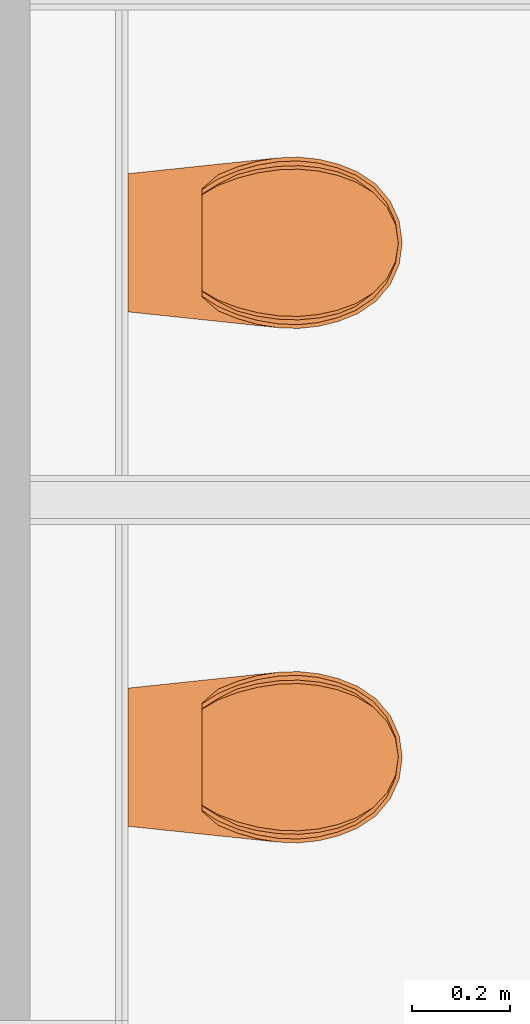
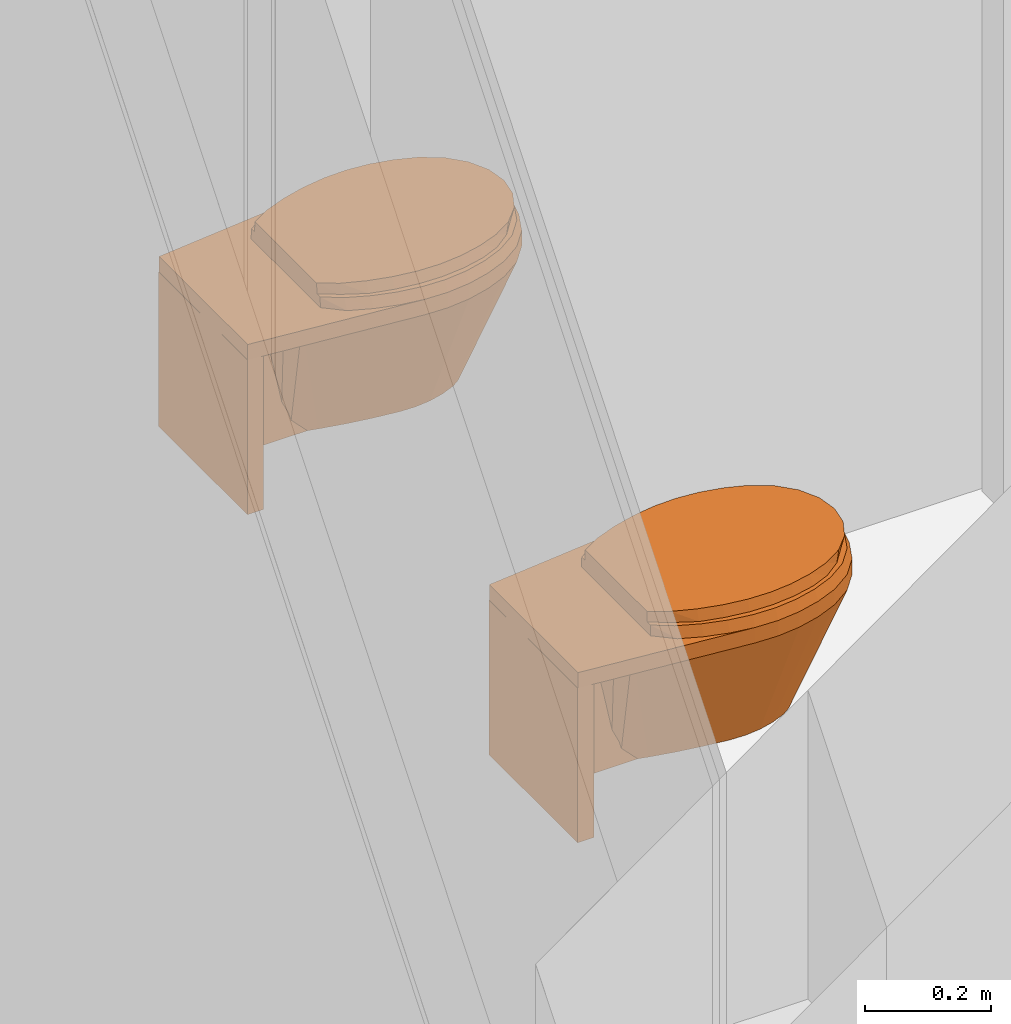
# One storey, part 130 of 135: 2 proxies.
"""IFC2X3 building model written with IfcOpenShell, lengths in millimetres."""

from ifc_helpers import new_model, entity, si_unit, converted_unit, derived_unit, money_unit, direction, frame, origin_with_axes, place, context, subcontext, project, spatial, open_shell, faceted_brep, surface_model, source, transform, mapped, type_object, type_shapes, element, save


model = new_model("IFC2X3")

# Units and contexts
model_context = context("Model", 3, precision=0.01, world=origin_with_axes(), true_north=direction((0.0, 1.0)))
body_context = subcontext(model_context, "Body", "Model", "MODEL_VIEW")
ifc_project = project(units=[si_unit("LENGTHUNIT", "METRE", prefix="MILLI"), si_unit("AREAUNIT", "SQUARE_METRE"), si_unit("VOLUMEUNIT", "CUBIC_METRE"), converted_unit("PLANEANGLEUNIT", "DEGREE", entity("IfcPlaneAngleMeasure", 0.0174532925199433), si_unit("PLANEANGLEUNIT", "RADIAN"), dimensions=[0, 0, 0, 0, 0, 0, 0]), money_unit("EUR"), converted_unit("TIMEUNIT", "Year", entity("IfcTimeMeasure", 31557600.0), si_unit("TIMEUNIT", "SECOND"), dimensions=[0, 0, 1, 0, 0, 0, 0]), si_unit("MASSUNIT", "GRAM", prefix="KILO"), si_unit("THERMODYNAMICTEMPERATUREUNIT", "DEGREE_CELSIUS"), si_unit("LUMINOUSINTENSITYUNIT", "LUMEN"), si_unit("ENERGYUNIT", "JOULE", prefix="MEGA"), derived_unit("THERMALCONDUCTANCEUNIT", [(si_unit("POWERUNIT", "WATT"), 1), (si_unit("LENGTHUNIT", "METRE"), -1), (si_unit("THERMODYNAMICTEMPERATUREUNIT", "KELVIN"), -1)]), derived_unit("SPECIFICHEATCAPACITYUNIT", [(si_unit("ENERGYUNIT", "JOULE"), 1), (si_unit("MASSUNIT", "GRAM", prefix="KILO"), -1), (si_unit("THERMODYNAMICTEMPERATUREUNIT", "KELVIN"), -1)]), derived_unit("MASSDENSITYUNIT", [(si_unit("MASSUNIT", "GRAM", prefix="KILO"), 1), (si_unit("VOLUMEUNIT", "CUBIC_METRE"), -1)])], contexts=[model_context])

# Site, building, storey
site_placement = place(None, origin_with_axes())
site = spatial("IfcSite", under=ifc_project, at=site_placement, Name="Site", CompositionType="ELEMENT")
building_placement = place(site_placement, origin_with_axes())
building = spatial("IfcBuilding", under=site, at=building_placement, Name="Naam gebouw", CompositionType="ELEMENT")
storey_placement = place(building_placement, origin_with_axes())
storey = spatial("IfcBuildingStorey", under=building, at=storey_placement, Name="Begane grond N", CompositionType="ELEMENT", Elevation=0.0)

# Proxies
building_element_proxy_type = type_object("IfcBuildingElementProxyType", Name="Toilet 27", PredefinedType="NOTDEFINED")
shared_shape = source(origin_with_axes(), body_context, "Body", "SurfaceModel", [
    faceted_brep([(-141.0283315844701, -29.31865370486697, 69.99999999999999), (-141.0283315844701, 0.4949050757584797, 69.99999999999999), (141.0283315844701, 0.4949050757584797, 69.99999999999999), (141.0283315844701, -29.31865370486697, 69.99999999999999), (-141.0283315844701, -29.31865370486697, 370.0), (-141.0283315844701, 0.4949050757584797, 370.0), (141.0283315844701, 0.4949050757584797, 370.0), (141.0283315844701, -29.31865370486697, 370.0)], [[[0, 1, 2, 3]], [[0, 4, 5, 1]], [[1, 5, 6, 2]], [[2, 6, 7, 3]], [[3, 7, 4, 0]], [[7, 6, 5, 4]]]),
    faceted_brep([(0.0, -70.89167385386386, 370.0), (29.22322490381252, -74.34010881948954, 370.0), (48.96817068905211, -81.5929972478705, 370.0), (48.96817068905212, -29.31865370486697, 370.0), (-48.96817068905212, -29.31865370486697, 370.0), (-48.96817068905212, -81.5929972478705, 370.0), (-29.22322490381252, -74.34010881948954, 370.0), (0.0, -102.6888280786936, 120.0), (13.70129415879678, -104.9506834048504, 120.0), (48.96817068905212, -88.2509938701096, 324.1614695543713), (48.96817068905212, -91.42153264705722, 305.9289314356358), (48.96817068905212, -107.0876370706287, 223.4625696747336), (48.96817068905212, -115.6023982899, 192.7960154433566), (48.96817068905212, -121.830119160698, 170.4964192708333), (48.96817068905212, -132.9294031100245, 150.8349994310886), (48.96817068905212, -136.958898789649, 141.3134093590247), (48.96817068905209, -162.865413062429, 120.0), (48.96817068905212, -29.31865370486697, 120.0), (-48.96817068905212, -29.31865370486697, 120.0), (-48.96817068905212, -132.9294031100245, 150.8349994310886), (-48.96817068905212, -128.1614437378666, 166.4745945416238), (-48.96817068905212, -115.6023982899, 192.7960154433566), (-48.96817068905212, -98.32654517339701, 277.0091093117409), (-48.96817068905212, -91.42153264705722, 305.9289314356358), (-48.96817068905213, -162.8654130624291, 120.0), (-25.9903462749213, -111.5027098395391, 120.0), (-13.70129415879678, -104.9506834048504, 120.0), (25.9903462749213, -111.5027098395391, 120.0), (35.59888072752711, -121.6691333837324, 120.0), (41.53676110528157, -134.4015105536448, 120.0), (-35.59888072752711, -121.6691333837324, 120.0), (-41.53676110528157, -134.4015105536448, 120.0)], [[[0, 1, 2, 3, 4, 5, 6]], [[0, 7, 1]], [[1, 8, 9, 2]], [[9, 10, 11, 12, 13, 14, 15, 16, 17, 3, 2]], [[4, 3, 17, 18]], [[19, 20, 21, 22, 23, 5, 4, 18, 24]], [[23, 25, 6, 5]], [[6, 26, 0]], [[7, 0, 26]], [[8, 1, 7]], [[27, 10, 9, 8]], [[10, 27, 11]], [[28, 12, 11, 27]], [[12, 28, 13]], [[29, 14, 13, 28]], [[14, 29, 15]], [[16, 15, 29]], [[29, 28, 27, 8, 7, 26, 25, 30, 31, 24, 18, 17, 16]], [[19, 31, 20]], [[20, 31, 30, 21]], [[21, 30, 22]], [[22, 30, 25, 23]], [[24, 31, 19]], [[26, 6, 25]]]),
    surface_model("IfcShellBasedSurfaceModel", [(-17.69122070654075, -459.020482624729, 120.0), (-85.18209164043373, -535.3680377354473, 370.0), (-34.02798181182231, -451.6883347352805, 120.0), (-44.28681357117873, -553.722258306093, 370.0), (-119.554809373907, -506.3435444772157, 370.0), (-47.75865687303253, -440.0938417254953, 120.0), (-57.83238894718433, -425.1254476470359, 120.0), (-68.23029031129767, -399.4182096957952, 120.0), (-74.94382651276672, -372.4786779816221, 120.0), (-77.83882476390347, -344.845484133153, 120.0), (-76.85750262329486, -317.0761416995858, 120.0), (-70.97348723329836, -270.8651255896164, 120.0), (-63.11507520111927, -224.9582077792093, 120.0), (-53.29597761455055, -179.4418475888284, 120.0), (-41.53676110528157, -134.4015105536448, 120.0), (-35.59888072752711, -121.6691333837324, 120.0), (-25.9903462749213, -111.5027098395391, 120.0), (-13.70129415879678, -104.9506834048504, 120.0), (0.0, -102.6888280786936, 120.0), (13.70129415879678, -104.9506834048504, 120.0), (25.9903462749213, -111.5027098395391, 120.0), (35.59888072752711, -121.6691333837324, 120.0), (41.53676110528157, -134.4015105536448, 120.0), (53.29597761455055, -179.4418475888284, 120.0), (63.11507520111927, -224.9582077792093, 120.0), (70.97348723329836, -270.8651255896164, 120.0), (76.85750262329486, -317.0761416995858, 120.0), (77.83882476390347, -344.8464779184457, 120.0), (74.94382651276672, -372.4786779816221, 120.0), (68.23029031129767, -399.4182096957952, 120.0), (57.83238894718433, -425.1254476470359, 120.0), (47.75865687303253, -440.0938417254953, 120.0), (34.02798181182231, -451.6883347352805, 120.0), (17.69122070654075, -459.020482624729, 120.0), (0.0, -461.5278029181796, 120.0), (-144.7734172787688, -468.8718762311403, 370.0), (-160.3903462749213, -430.2603362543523, 370.0), (-170.4738719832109, -389.7973742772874, 370.0), (-174.8222455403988, -348.2949128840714, 370.0), (-173.3473242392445, -306.5847503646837, 370.0), (-164.8111927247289, -257.2969749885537, 370.0), (-149.8396642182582, -209.614162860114, 370.0), (-128.7050017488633, -164.3989196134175, 370.0), (-101.7881776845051, -122.4661491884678, 370.0), (-81.51241692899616, -100.8344247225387, 370.0), (-56.88632388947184, -84.50156343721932, 370.0), (-29.22322490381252, -74.34010881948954, 370.0), (0.0, -70.89167385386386, 370.0), (29.22322490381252, -74.34010881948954, 370.0), (56.88632388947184, -84.50156343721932, 370.0), (81.51241692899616, -100.8344247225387, 370.0), (101.7881776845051, -122.4661491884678, 370.0), (128.7050017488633, -164.3989196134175, 370.0), (149.8396642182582, -209.614162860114, 370.0), (164.8111927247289, -257.295981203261, 370.0), (173.3473242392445, -306.5847503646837, 370.0), (174.8222455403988, -348.2949128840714, 370.0), (170.4738719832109, -389.7973742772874, 370.0), (160.3893669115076, -430.2603362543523, 370.0), (144.7734172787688, -468.8718762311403, 370.0), (119.554809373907, -506.3435444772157, 370.0), (85.18209164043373, -535.3680377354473, 370.0), (44.28681357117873, -553.722258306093, 370.0), (0.0, -560.0, 370.0)], [open_shell([[[0, 1, 2]], [[0, 3, 1]], [[2, 1, 4]], [[0, 2, 5, 6, 7, 8, 9, 10, 11, 12, 13, 14, 15, 16, 17, 18, 19, 20, 21, 22, 23, 24, 25, 26, 27, 28, 29, 30, 31, 32, 33, 34]], [[34, 3, 0]], [[2, 4, 5]], [[5, 35, 6]], [[6, 36, 7]], [[7, 37, 8]], [[8, 38, 9]], [[9, 39, 10]], [[10, 40, 11]], [[11, 41, 12]], [[12, 42, 13]], [[13, 43, 14]], [[14, 44, 15]], [[15, 45, 16]], [[16, 46, 17]], [[17, 47, 18]], [[18, 48, 19]], [[19, 49, 20]], [[20, 50, 21]], [[21, 51, 22]], [[22, 52, 23]], [[23, 53, 24]], [[24, 54, 25]], [[25, 55, 26]], [[26, 56, 27]], [[27, 57, 28]], [[28, 58, 29]], [[29, 59, 30]], [[30, 60, 31]], [[31, 61, 32]], [[32, 62, 33]], [[33, 63, 34]], [[34, 63, 3]], [[5, 4, 35]], [[6, 35, 36]], [[7, 36, 37]], [[8, 37, 38]], [[9, 38, 39]], [[10, 39, 40]], [[11, 40, 41]], [[12, 41, 42]], [[13, 42, 43]], [[14, 43, 44]], [[15, 44, 45]], [[16, 45, 46]], [[17, 46, 47]], [[18, 47, 48]], [[19, 48, 49]], [[20, 49, 50]], [[21, 50, 51]], [[22, 51, 52]], [[23, 52, 53]], [[24, 53, 54]], [[25, 54, 55]], [[26, 55, 56]], [[27, 56, 57]], [[28, 57, 58]], [[29, 58, 59]], [[30, 59, 60]], [[31, 60, 61]], [[32, 61, 62]], [[33, 62, 63]]])]),
    faceted_brep([(173.3473242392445, -306.5847503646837, 370.0), (173.3473242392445, -306.5847503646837, 400.0), (174.8222455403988, -348.2949128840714, 400.0), (174.8222455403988, -348.2949128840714, 370.0), (140.9734872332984, 0.0, 370.0), (140.9734872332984, 0.0, 400.0), (-140.975445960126, 0.0, 400.0), (-173.3473242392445, -306.5847503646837, 400.0), (-174.8222455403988, -348.2949128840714, 400.0), (-170.4738719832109, -389.7973742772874, 400.0), (-160.3903462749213, -430.2603362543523, 400.0), (-144.7734172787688, -468.8718762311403, 400.0), (-119.554809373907, -506.3435444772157, 400.0), (-85.18209164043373, -535.3680377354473, 400.0), (-44.28681357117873, -553.722258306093, 400.0), (0.0, -560.0, 400.0), (44.28681357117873, -553.722258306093, 400.0), (85.18209164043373, -535.3680377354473, 400.0), (119.554809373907, -506.3435444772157, 400.0), (144.7734172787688, -468.8718762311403, 400.0), (160.3893669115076, -430.2603362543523, 400.0), (170.4738719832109, -389.7973742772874, 400.0), (-144.5021336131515, -309.7211367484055, 400.0), (-129.3885974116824, -258.2838037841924, 400.0), (-97.13522210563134, -215.7418429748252, 400.0), (-52.01301154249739, -187.731010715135, 400.0), (0.0, -177.9630950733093, 400.0), (52.01301154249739, -187.731010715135, 400.0), (97.13522210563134, -215.7418429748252, 400.0), (129.3885974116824, -258.2838037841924, 400.0), (144.5021336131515, -309.7211367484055, 400.0), (145.8291710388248, -347.2633637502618, 400.0), (141.914655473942, -384.6197529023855, 400.0), (132.838894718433, -421.0399963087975, 400.0), (118.7820916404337, -455.7936617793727, 400.0), (98.09206016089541, -486.5383973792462, 400.0), (69.89031129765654, -510.3524743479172, 400.0), (36.33634137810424, -525.411302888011, 400.0), (0.0, -530.5620920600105, 400.0), (-36.33634137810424, -525.411302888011, 400.0), (-69.89031129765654, -510.3524743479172, 400.0), (-98.09206016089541, -486.5383973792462, 400.0), (-118.7820916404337, -455.7936617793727, 400.0), (-132.838894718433, -421.0399963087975, 400.0), (-141.914655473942, -384.6197529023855, 400.0), (-145.8291710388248, -347.2633637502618, 400.0), (170.4738719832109, -389.7973742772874, 370.0), (160.3893669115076, -430.2603362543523, 370.0), (144.7734172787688, -468.8718762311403, 370.0), (119.554809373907, -506.3435444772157, 370.0), (85.18209164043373, -535.3680377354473, 370.0), (44.28681357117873, -553.722258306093, 370.0), (0.0, -560.0, 370.0), (-44.28681357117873, -553.722258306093, 370.0), (-85.18209164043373, -535.3680377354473, 370.0), (-119.554809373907, -506.3435444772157, 370.0), (-144.7734172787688, -468.8718762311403, 370.0), (-160.3903462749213, -430.2603362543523, 370.0), (-170.4738719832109, -389.7973742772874, 370.0), (-174.8222455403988, -348.2949128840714, 370.0), (-173.3473242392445, -306.5847503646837, 370.0), (-140.975445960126, 0.0, 370.0), (-144.5021336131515, -309.7211367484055, 370.0), (-145.8291710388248, -347.2633637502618, 370.0), (-141.914655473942, -384.6197529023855, 370.0), (-132.838894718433, -421.0399963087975, 370.0), (-118.7820916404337, -455.7936617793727, 370.0), (-98.09206016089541, -486.5383973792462, 370.0), (-69.89031129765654, -510.3524743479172, 370.0), (-36.33634137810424, -525.411302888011, 370.0), (0.0, -530.5620920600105, 370.0), (36.33634137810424, -525.411302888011, 370.0), (69.89031129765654, -510.3524743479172, 370.0), (98.09206016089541, -486.5383973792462, 370.0), (118.7820916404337, -455.7936617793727, 370.0), (132.838894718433, -421.0399963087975, 370.0), (141.914655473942, -384.6197529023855, 370.0), (145.8291710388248, -347.2633637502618, 370.0), (144.5021336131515, -309.7211367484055, 370.0), (129.3885974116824, -258.2838037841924, 370.0), (97.13522210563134, -215.7418429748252, 370.0), (52.01301154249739, -187.731010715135, 370.0), (0.0, -177.9630950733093, 370.0), (-52.01301154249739, -187.731010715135, 370.0), (-97.13522210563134, -215.7418429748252, 370.0), (-129.3885974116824, -258.2838037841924, 370.0)], [[[0, 1, 2, 3]], [[4, 5, 1, 0]], [[1, 5, 6, 7, 8, 9, 10, 11, 12, 13, 14, 15, 16, 17, 18, 19, 20, 21, 2], [22, 23, 24, 25, 26, 27, 28, 29, 30, 31, 32, 33, 34, 35, 36, 37, 38, 39, 40, 41, 42, 43, 44, 45]], [[3, 2, 21, 46]], [[0, 3, 46, 47, 48, 49, 50, 51, 52, 53, 54, 55, 56, 57, 58, 59, 60, 61, 4], [62, 63, 64, 65, 66, 67, 68, 69, 70, 71, 72, 73, 74, 75, 76, 77, 78, 79, 80, 81, 82, 83, 84, 85]], [[61, 6, 5, 4]], [[60, 7, 6, 61]], [[59, 8, 7, 60]], [[58, 9, 8, 59]], [[57, 10, 9, 58]], [[56, 11, 10, 57]], [[55, 12, 11, 56]], [[54, 13, 12, 55]], [[53, 14, 13, 54]], [[52, 15, 14, 53]], [[51, 16, 15, 52]], [[50, 17, 16, 51]], [[49, 18, 17, 50]], [[48, 19, 18, 49]], [[47, 20, 19, 48]], [[46, 21, 20, 47]], [[85, 23, 22, 62]], [[84, 24, 23, 85]], [[83, 25, 24, 84]], [[82, 26, 25, 83]], [[81, 27, 26, 82]], [[80, 28, 27, 81]], [[79, 29, 28, 80]], [[78, 30, 29, 79]], [[77, 31, 30, 78]], [[76, 32, 31, 77]], [[75, 33, 32, 76]], [[74, 34, 33, 75]], [[73, 35, 34, 74]], [[72, 36, 35, 73]], [[71, 37, 36, 72]], [[70, 38, 37, 71]], [[69, 39, 38, 70]], [[68, 40, 39, 69]], [[67, 41, 40, 68]], [[66, 42, 41, 67]], [[65, 43, 42, 66]], [[64, 44, 43, 65]], [[63, 45, 44, 64]], [[62, 22, 45, 63]]]),
    surface_model("IfcShellBasedSurfaceModel", [(-16.80665967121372, -465.7329258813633, 220.0), (-80.92298705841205, -525.2840188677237, 370.0), (-32.3265827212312, -460.0138505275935, 220.0), (-42.0724728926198, -539.6003109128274, 370.0), (-113.5770689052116, -502.644914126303, 370.0), (-45.3707240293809, -450.970145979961, 220.0), (-54.94076949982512, -439.2947985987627, 220.0), (-64.81877579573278, -419.2431529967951, 220.0), (-71.1966351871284, -398.23031825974, 220.0), (-73.9468835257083, -376.6764270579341, 220.0), (-73.01462749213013, -355.0163399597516, 220.0), (-67.42481287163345, -318.9717473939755, 220.0), (-59.95932144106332, -283.164351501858, 220.0), (-50.63117873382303, -247.6615905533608, 220.0), (-39.4599230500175, -212.5301276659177, 220.0), (-33.81893669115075, -202.598873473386, 220.0), (-24.69082896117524, -194.6690631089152, 220.0), (-13.01622945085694, -189.558482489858, 220.0), (0.0, -187.7942353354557, 220.0), (13.01622945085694, -189.558482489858, 220.0), (24.69082896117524, -194.6690631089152, 220.0), (33.81893669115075, -202.598873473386, 220.0), (39.4599230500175, -212.5301276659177, 220.0), (50.63117873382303, -247.6615905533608, 220.0), (59.95932144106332, -283.164351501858, 220.0), (67.42481287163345, -318.9717473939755, 220.0), (73.01462749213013, -355.0163399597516, 220.0), (73.9468835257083, -376.6772022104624, 220.0), (71.1966351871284, -398.23031825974, 220.0), (64.81877579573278, -419.2431529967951, 220.0), (54.94076949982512, -439.2947985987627, 220.0), (45.3707240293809, -450.970145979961, 220.0), (32.3265827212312, -460.0138505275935, 220.0), (16.80665967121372, -465.7329258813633, 220.0), (0.0, -467.6886357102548, 220.0), (-137.5347464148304, -473.4170128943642, 370.0), (-152.3708289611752, -443.3000117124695, 370.0), (-161.9501783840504, -411.7389013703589, 370.0), (-166.0811332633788, -379.3669814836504, 370.0), (-164.6799580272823, -346.833054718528, 370.0), (-156.5706330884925, -308.3885899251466, 370.0), (-142.3476810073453, -271.1959964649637, 370.0), (-122.2697516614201, -235.9281067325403, 370.0), (-96.69876880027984, -203.2205458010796, 370.0), (-77.43679608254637, -186.3478007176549, 370.0), (-54.04200769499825, -173.6081689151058, 370.0), (-27.7620636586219, -165.6822343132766, 370.0), (0.0, -162.9924550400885, 370.0), (27.7620636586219, -165.6822343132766, 370.0), (54.04200769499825, -173.6081689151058, 370.0), (77.43679608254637, -186.3478007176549, 370.0), (96.69876880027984, -203.2205458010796, 370.0), (122.2697516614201, -235.9281067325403, 370.0), (142.3476810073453, -271.1959964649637, 370.0), (156.5706330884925, -308.3878147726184, 370.0), (164.6799580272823, -346.833054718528, 370.0), (166.0811332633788, -379.3669814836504, 370.0), (161.9501783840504, -411.7389013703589, 370.0), (152.3698985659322, -443.3000117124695, 370.0), (137.5347464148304, -473.4170128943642, 370.0), (113.5770689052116, -502.644914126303, 370.0), (80.92298705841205, -525.2840188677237, 370.0), (42.0724728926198, -539.6003109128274, 370.0), (0.0, -544.4969494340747, 370.0)], [open_shell([[[0, 1, 2]], [[0, 3, 1]], [[2, 1, 4]], [[0, 2, 5, 6, 7, 8, 9, 10, 11, 12, 13, 14, 15, 16, 17, 18, 19, 20, 21, 22, 23, 24, 25, 26, 27, 28, 29, 30, 31, 32, 33, 34]], [[34, 3, 0]], [[2, 4, 5]], [[5, 35, 6]], [[6, 36, 7]], [[7, 37, 8]], [[8, 38, 9]], [[9, 39, 10]], [[10, 40, 11]], [[11, 41, 12]], [[12, 42, 13]], [[13, 43, 14]], [[14, 44, 15]], [[15, 45, 16]], [[16, 46, 17]], [[17, 47, 18]], [[18, 48, 19]], [[19, 49, 20]], [[20, 50, 21]], [[21, 51, 22]], [[22, 52, 23]], [[23, 53, 24]], [[24, 54, 25]], [[25, 55, 26]], [[26, 56, 27]], [[27, 57, 28]], [[28, 58, 29]], [[29, 59, 30]], [[30, 60, 31]], [[31, 61, 32]], [[32, 62, 33]], [[33, 63, 34]], [[34, 63, 3]], [[5, 4, 35]], [[6, 35, 36]], [[7, 36, 37]], [[8, 37, 38]], [[9, 38, 39]], [[10, 39, 40]], [[11, 40, 41]], [[12, 41, 42]], [[13, 42, 43]], [[14, 43, 44]], [[15, 44, 45]], [[16, 45, 46]], [[17, 46, 47]], [[18, 47, 48]], [[19, 48, 49]], [[20, 49, 50]], [[21, 50, 51]], [[22, 51, 52]], [[23, 52, 53]], [[24, 53, 54]], [[25, 54, 55]], [[26, 55, 56]], [[27, 56, 57]], [[28, 57, 58]], [[29, 58, 59]], [[30, 59, 60]], [[31, 60, 61]], [[32, 61, 62]], [[33, 62, 63]]])]),
    faceted_brep([(0.0, -560.0, 400.0), (-44.28681357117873, -553.722258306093, 400.0), (-85.18209164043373, -535.3680377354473, 400.0), (-119.554809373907, -506.3435444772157, 400.0), (-144.7734172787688, -468.8718762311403, 400.0), (-160.3903462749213, -430.2603362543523, 400.0), (-170.4738719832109, -389.7973742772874, 400.0), (-174.8222455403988, -348.2949128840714, 400.0), (-173.3473242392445, -306.5847503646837, 400.0), (-166.4663168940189, -264.4263906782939, 400.0), (-154.8716334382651, -223.3443004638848, 400.0), (-138.7150752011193, -183.8810864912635, 400.0), (-110.1926579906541, -151.3163525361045, 400.0), (110.1926579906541, -151.3163525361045, 400.0), (138.7150752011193, -183.8810864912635, 400.0), (154.8716334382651, -223.3443004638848, 400.0), (166.4663168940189, -264.4263906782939, 400.0), (173.3473242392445, -306.5847503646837, 400.0), (174.8222455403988, -348.2949128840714, 400.0), (170.4738719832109, -389.7973742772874, 400.0), (160.3893669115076, -430.2603362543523, 400.0), (144.7734172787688, -468.8718762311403, 400.0), (119.554809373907, -506.3435444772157, 400.0), (85.18209164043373, -535.3680377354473, 400.0), (44.28681357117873, -553.722258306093, 400.0), (-87.07689659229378, -411.9963613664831, 400.0), (-76.4888004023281, -438.0775703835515, 400.0), (-62.06856874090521, -459.4262123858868, 400.0), (-44.26109835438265, -474.4067566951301, 400.0), (-23.02579943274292, -483.9023013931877, 400.0), (0.0, -487.1544663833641, 400.0), (23.02579943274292, -483.9023013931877, 400.0), (44.26109835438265, -474.4067566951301, 400.0), (62.06856874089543, -459.4262123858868, 400.0), (76.4888004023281, -438.0775703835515, 400.0), (87.07689659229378, -411.9963613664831, 400.0), (94.51085540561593, -382.2763031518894, 400.0), (97.71606496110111, -351.7983255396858, 400.0), (96.61425296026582, -320.7429308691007, 400.0), (90.99294096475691, -286.7942733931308, 400.0), (81.3289539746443, -253.3384220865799, 400.0), (68.75412876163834, -223.4663237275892, 400.0), (-68.75448552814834, -223.4663237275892, 400.0), (-81.32886310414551, -253.3381075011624, 400.0), (-90.99294096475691, -286.7942733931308, 400.0), (-96.61425296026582, -320.7429308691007, 400.0), (-97.71606496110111, -351.7983255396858, 400.0), (-94.51085540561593, -382.2763031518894, 400.0), (-42.15180132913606, -546.1188070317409, 420.0000000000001), (-81.07562084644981, -528.649055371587, 420.0000000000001), (-113.7912556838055, -501.0248055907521, 420.0000000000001), (-137.7925148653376, -465.3598390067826, 420.0000000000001), (-152.9902763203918, -427.7848170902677, 420.0000000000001), (-162.8034977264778, -388.4070686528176, 420.0000000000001), (-167.0353270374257, -348.0176467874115, 420.0000000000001), (-165.6005596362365, -307.4274802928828, 420.0000000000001), (-158.5902763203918, -264.9332211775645, 420.0000000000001), (-146.6880727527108, -223.5758524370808, 420.0000000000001), (-130.06142007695, -183.9307757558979, 420.0000000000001), (-108.940468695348, -151.3163525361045, 420.0000000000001), (108.940468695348, -151.3163525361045, 420.0000000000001), (130.06142007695, -183.9317695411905, 420.0000000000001), (146.6880727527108, -223.5758524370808, 420.0000000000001), (158.5902763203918, -264.9332211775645, 420.0000000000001), (165.6005596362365, -307.4274802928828, 420.0000000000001), (167.0353270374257, -348.0176467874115, 420.0000000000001), (162.8034977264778, -388.4070686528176, 420.0000000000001), (152.9902763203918, -427.7848170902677, 420.0000000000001), (137.7925148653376, -465.3598390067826, 420.0000000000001), (113.7912556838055, -501.0248055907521, 420.0000000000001), (81.07562084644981, -528.649055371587, 420.0000000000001), (42.15180132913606, -546.1188070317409, 420.0000000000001), (0.0, -552.0944379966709, 420.0000000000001), (-76.4888004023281, -438.0775703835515, 420.0), (-87.07689659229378, -411.9963613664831, 420.0), (-62.06856874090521, -459.4262123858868, 420.0), (-44.26109835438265, -474.4067566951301, 420.0), (-23.02579943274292, -483.9023013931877, 420.0), (0.0, -487.1544663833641, 420.0), (23.02579943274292, -483.9023013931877, 420.0000000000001), (44.26109835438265, -474.4067566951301, 420.0000000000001), (62.06856874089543, -459.4262123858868, 420.0000000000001), (76.4888004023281, -438.0775703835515, 420.0000000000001), (87.07689659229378, -411.9963613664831, 420.0000000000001), (94.51085540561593, -382.2763031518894, 420.0000000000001), (97.71606496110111, -351.7983255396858, 420.0000000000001), (96.61425296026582, -320.7429308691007, 420.0000000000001), (90.99294096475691, -286.7942733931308, 420.0000000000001), (81.3289539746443, -253.3384220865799, 420.0000000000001), (68.75412876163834, -223.4663237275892, 420.0000000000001), (-68.75448552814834, -223.4663237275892, 420.0), (-81.32886310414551, -253.3381075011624, 420.0), (-90.99294096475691, -286.7942733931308, 420.0), (-96.61425296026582, -320.7429308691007, 420.0), (-97.71606496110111, -351.7983255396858, 420.0), (-94.51085540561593, -382.2763031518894, 420.0)], [[[0, 1, 2, 3, 4, 5, 6, 7, 8, 9, 10, 11, 12, 13, 14, 15, 16, 17, 18, 19, 20, 21, 22, 23, 24], [25, 26, 27, 28, 29, 30, 31, 32, 33, 34, 35, 36, 37, 38, 39, 40, 41, 42, 43, 44, 45, 46, 47]], [[0, 48, 1]], [[1, 49, 2]], [[2, 50, 3]], [[3, 51, 4]], [[5, 4, 51, 52]], [[5, 53, 6]], [[7, 6, 53, 54]], [[7, 55, 8]], [[8, 56, 9]], [[9, 57, 10]], [[10, 58, 11]], [[11, 59, 12]], [[13, 12, 59, 60]], [[13, 61, 14]], [[14, 62, 15]], [[15, 63, 16]], [[16, 64, 17]], [[17, 65, 18]], [[19, 18, 65, 66]], [[19, 67, 20]], [[20, 68, 21]], [[21, 69, 22]], [[22, 70, 23]], [[23, 71, 24]], [[24, 72, 0]], [[73, 26, 25, 74]], [[75, 27, 26, 73]], [[76, 28, 27, 75]], [[77, 29, 28, 76]], [[78, 30, 29, 77]], [[79, 31, 30, 78]], [[80, 32, 31, 79]], [[81, 33, 32, 80]], [[82, 34, 33, 81]], [[83, 35, 34, 82]], [[84, 36, 35, 83]], [[85, 37, 36, 84]], [[86, 38, 37, 85]], [[87, 39, 38, 86]], [[88, 40, 39, 87]], [[89, 41, 40, 88]], [[90, 42, 41, 89]], [[91, 43, 42, 90]], [[92, 44, 43, 91]], [[93, 45, 44, 92]], [[94, 46, 45, 93]], [[95, 47, 46, 94]], [[74, 25, 47, 95]], [[0, 72, 48]], [[1, 48, 49]], [[2, 49, 50]], [[3, 50, 51]], [[66, 65, 64, 63, 62, 61, 60, 59, 58, 57, 56, 55, 54, 53, 52, 51, 50, 49, 48, 72, 71, 70, 69, 68, 67], [92, 91, 90, 89, 88, 87, 86, 85, 84, 83, 82, 81, 80, 79, 78, 77, 76, 75, 73, 74, 95, 94, 93]], [[5, 52, 53]], [[7, 54, 55]], [[8, 55, 56]], [[9, 56, 57]], [[10, 57, 58]], [[11, 58, 59]], [[13, 60, 61]], [[14, 61, 62]], [[15, 62, 63]], [[16, 63, 64]], [[17, 64, 65]], [[19, 66, 67]], [[20, 67, 68]], [[21, 68, 69]], [[22, 69, 70]], [[23, 70, 71]], [[24, 71, 72]]]),
    faceted_brep([(107.5993284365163, -494.4181209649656, 420.0000000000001), (72.96805876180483, -528.649055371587, 440.0000000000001), (76.66388247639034, -519.4674730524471, 420.0000000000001), (102.412130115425, -501.0248055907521, 440.0000000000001), (37.93662119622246, -546.1188070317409, 440.0000000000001), (39.85813221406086, -538.8154789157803, 420.0000000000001), (0.0, -545.0932206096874, 420.0000000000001), (-39.85813221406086, -538.8154789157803, 420.0000000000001), (-76.66388247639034, -519.4674730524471, 420.0000000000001), (-107.5993284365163, -494.4181209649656, 420.0000000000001), (-130.2960755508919, -463.9029497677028, 420.0000000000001), (-144.3513116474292, -430.2603362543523, 420.0000000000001), (-153.4264847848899, -389.7973742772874, 420.0000000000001), (-157.3400209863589, -348.2949128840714, 420.0000000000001), (-156.01259181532, -306.5847503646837, 420.0000000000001), (-149.819685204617, -264.4263906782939, 420.0000000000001), (-139.3844700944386, -223.3443004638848, 420.0000000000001), (-119.5550052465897, -183.8810864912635, 420.0000000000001), (-99.17339219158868, -151.3163525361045, 420.0000000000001), (99.17339219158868, -151.3163525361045, 420.0000000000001), (119.5550052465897, -183.8810864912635, 420.0000000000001), (139.3844700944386, -223.3443004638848, 420.0000000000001), (149.819685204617, -264.4263906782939, 420.0000000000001), (156.01259181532, -306.5847503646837, 420.0000000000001), (157.3400209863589, -348.2949128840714, 420.0000000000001), (153.4264847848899, -389.7973742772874, 420.0000000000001), (144.3504302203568, -430.2603362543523, 420.0000000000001), (130.2960755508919, -463.9029497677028, 420.0000000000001), (124.0132633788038, -465.3598390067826, 440.0000000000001), (137.6912486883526, -427.7848170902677, 440.0000000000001), (146.52314795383, -388.4070686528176, 440.0000000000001), (150.3317943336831, -348.0176467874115, 440.0000000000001), (149.0405036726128, -307.4274802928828, 440.0000000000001), (142.7312486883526, -264.9332211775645, 440.0000000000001), (132.0192654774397, -223.5758524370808, 440.0000000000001), (117.055278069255, -183.9317695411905, 440.0000000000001), (98.04642182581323, -151.3163525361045, 440.0000000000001), (-98.04642182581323, -151.3163525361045, 440.0000000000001), (-117.055278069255, -183.9307757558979, 440.0000000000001), (-132.0192654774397, -223.5758524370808, 440.0000000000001), (-142.7312486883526, -264.9332211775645, 440.0000000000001), (-149.0405036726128, -307.4274802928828, 440.0000000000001), (-150.3317943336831, -348.0176467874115, 440.0000000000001), (-146.52314795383, -388.4070686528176, 440.0000000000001), (-137.6912486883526, -427.7848170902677, 440.0000000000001), (-124.0132633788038, -465.3598390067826, 440.0000000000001), (-102.412130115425, -501.0248055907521, 440.0000000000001), (-72.96805876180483, -528.649055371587, 440.0000000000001), (-37.93662119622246, -546.1188070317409, 440.0000000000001), (0.0, -552.0944379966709, 440.0000000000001)], [[[0, 1, 2]], [[0, 3, 1]], [[2, 1, 4]], [[0, 2, 5, 6, 7, 8, 9, 10, 11, 12, 13, 14, 15, 16, 17, 18, 19, 20, 21, 22, 23, 24, 25, 26, 27]], [[27, 3, 0]], [[3, 28, 29, 30, 31, 32, 33, 34, 35, 36, 37, 38, 39, 40, 41, 42, 43, 44, 45, 46, 47, 48, 49, 4, 1]], [[2, 4, 5]], [[5, 49, 6]], [[6, 48, 7]], [[7, 47, 8]], [[8, 46, 9]], [[9, 45, 10]], [[10, 44, 11]], [[11, 43, 12]], [[12, 43, 42, 13]], [[13, 41, 14]], [[14, 40, 15]], [[15, 39, 16]], [[16, 38, 17]], [[17, 37, 18]], [[18, 37, 36, 19]], [[19, 35, 20]], [[20, 34, 21]], [[21, 33, 22]], [[22, 32, 23]], [[23, 31, 24]], [[24, 31, 30, 25]], [[25, 29, 26]], [[26, 28, 27]], [[27, 28, 3]], [[26, 29, 28]], [[25, 30, 29]], [[23, 32, 31]], [[22, 33, 32]], [[21, 34, 33]], [[20, 35, 34]], [[19, 36, 35]], [[17, 38, 37]], [[16, 39, 38]], [[15, 40, 39]], [[14, 41, 40]], [[13, 42, 41]], [[11, 44, 43]], [[10, 45, 44]], [[9, 46, 45]], [[8, 47, 46]], [[7, 48, 47]], [[6, 49, 48]], [[5, 4, 49]]]),
])
type_shapes(building_element_proxy_type, [shared_shape])
for number, where, z_axis, x_axis, name in (
    (1, (20735.99999999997, 29743.4124251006, 0.0), (0.0, 0.0, 1.0), (0.0, 1.0, 0.0), "_Sanitair-x"),
    (2, (20735.99999999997, 28693.41242510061, 0.0), (0.0, 0.0, 1.0), (0.0, 1.0, 0.0), "_Sanitair-x"),
):
    element("IfcBuildingElementProxy", number, at=place(storey_placement, frame(where, z_axis=z_axis, x_axis=x_axis)), inside=storey, type_object=building_element_proxy_type, Name=name, context=body_context, shape_type="MappedRepresentation", body=[
        mapped(shared_shape, transform((0.0, 0.0, 0.0))),
    ])

save(model, "model.ifc")
